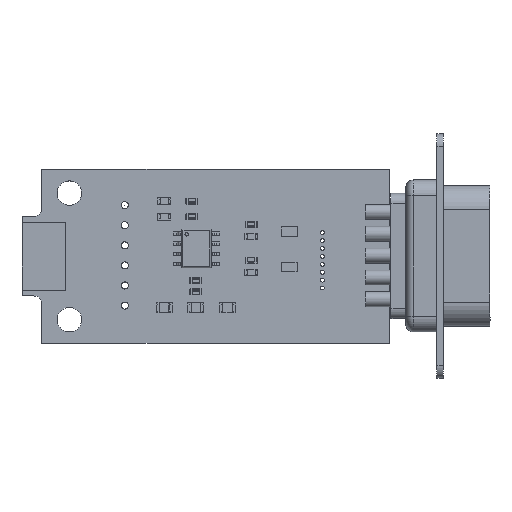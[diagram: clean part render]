
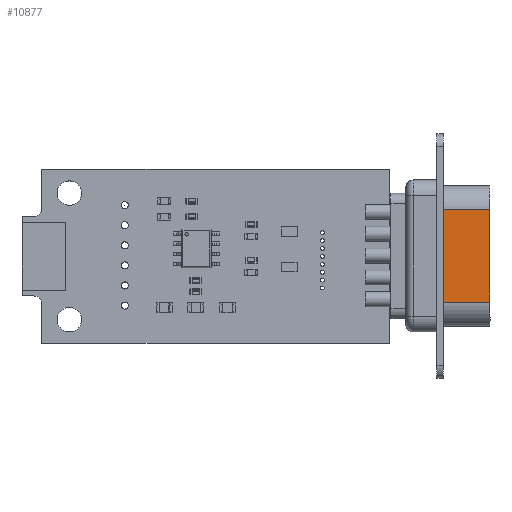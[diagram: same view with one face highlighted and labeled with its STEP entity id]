
A CAD part, top view. The second image highlights one B-rep face of the part: STEP entity #10877.
In plain terms, the highlighted planar face has unit normal (0, 0, 1) as drawn and (0, 1, 0) by its records, which use the part's own axes.
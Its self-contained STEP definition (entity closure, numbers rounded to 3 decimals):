
#3077 = VERTEX_POINT('',#3078);
#3078 = CARTESIAN_POINT('',(-5.829,4.608,0.));
#3086 = PLANE('',#3087);
#3087 = AXIS2_PLACEMENT_3D('',#3088,#3089,#3090);
#3088 = CARTESIAN_POINT('',(0.,0.,0.));
#3089 = DIRECTION('',(0.,0.,1.));
#3090 = DIRECTION('',(1.,0.,0.));
#3102 = CYLINDRICAL_SURFACE('',#3103,3.058);
#3103 = AXIS2_PLACEMENT_3D('',#3104,#3105,#3106);
#3104 = CARTESIAN_POINT('',(-5.829,1.549,0.));
#3105 = DIRECTION('',(0.,0.,1.));
#3106 = DIRECTION('',(1.,0.,0.));
#3113 = EDGE_CURVE('',#3077,#3114,#3116,.T.);
#3114 = VERTEX_POINT('',#3115);
#3115 = CARTESIAN_POINT('',(5.829,4.608,0.));
#3116 = SURFACE_CURVE('',#3117,(#3121,#3128),.PCURVE_S1.);
#3117 = LINE('',#3118,#3119);
#3118 = CARTESIAN_POINT('',(-5.829,4.608,0.));
#3119 = VECTOR('',#3120,1.);
#3120 = DIRECTION('',(1.,0.,0.));
#3121 = PCURVE('',#3086,#3122);
#3122 = DEFINITIONAL_REPRESENTATION('',(#3123),#3127);
#3123 = LINE('',#3124,#3125);
#3124 = CARTESIAN_POINT('',(-5.829,4.608));
#3125 = VECTOR('',#3126,1.);
#3126 = DIRECTION('',(1.,0.));
#3127 = ( GEOMETRIC_REPRESENTATION_CONTEXT(2) 
PARAMETRIC_REPRESENTATION_CONTEXT() REPRESENTATION_CONTEXT('2D SPACE',''
  ) );
#3128 = PCURVE('',#3129,#3134);
#3129 = PLANE('',#3130);
#3130 = AXIS2_PLACEMENT_3D('',#3131,#3132,#3133);
#3131 = CARTESIAN_POINT('',(5.829,4.608,0.));
#3132 = DIRECTION('',(0.,1.,0.));
#3133 = DIRECTION('',(-1.,0.,0.));
#3134 = DEFINITIONAL_REPRESENTATION('',(#3135),#3139);
#3135 = LINE('',#3136,#3137);
#3136 = CARTESIAN_POINT('',(11.659,0.));
#3137 = VECTOR('',#3138,1.);
#3138 = DIRECTION('',(-1.,0.));
#3139 = ( GEOMETRIC_REPRESENTATION_CONTEXT(2) 
PARAMETRIC_REPRESENTATION_CONTEXT() REPRESENTATION_CONTEXT('2D SPACE',''
  ) );
#3162 = CYLINDRICAL_SURFACE('',#3163,3.058);
#3163 = AXIS2_PLACEMENT_3D('',#3164,#3165,#3166);
#3164 = CARTESIAN_POINT('',(5.829,1.549,0.));
#3165 = DIRECTION('',(0.,0.,1.));
#3166 = DIRECTION('',(1.,0.,0.));
#3571 = EDGE_CURVE('',#3572,#3077,#3574,.T.);
#3572 = VERTEX_POINT('',#3573);
#3573 = CARTESIAN_POINT('',(-5.829,4.608,-5.918));
#3574 = SURFACE_CURVE('',#3575,(#3579,#3585),.PCURVE_S1.);
#3575 = LINE('',#3576,#3577);
#3576 = CARTESIAN_POINT('',(-5.829,4.608,-5.918));
#3577 = VECTOR('',#3578,1.);
#3578 = DIRECTION('',(0.,0.,1.));
#3579 = PCURVE('',#3102,#3580);
#3580 = DEFINITIONAL_REPRESENTATION('',(#3581),#3584);
#3581 = B_SPLINE_CURVE_WITH_KNOTS('',1,(#3582,#3583),.UNSPECIFIED.,.F.,
  .F.,(2,2),(0.,5.918),.PIECEWISE_BEZIER_KNOTS.);
#3582 = CARTESIAN_POINT('',(1.571,-5.918));
#3583 = CARTESIAN_POINT('',(1.571,0.));
#3584 = ( GEOMETRIC_REPRESENTATION_CONTEXT(2) 
PARAMETRIC_REPRESENTATION_CONTEXT() REPRESENTATION_CONTEXT('2D SPACE',''
  ) );
#3585 = PCURVE('',#3129,#3586);
#3586 = DEFINITIONAL_REPRESENTATION('',(#3587),#3591);
#3587 = LINE('',#3588,#3589);
#3588 = CARTESIAN_POINT('',(11.659,-5.918));
#3589 = VECTOR('',#3590,1.);
#3590 = DIRECTION('',(0.,1.));
#3591 = ( GEOMETRIC_REPRESENTATION_CONTEXT(2) 
PARAMETRIC_REPRESENTATION_CONTEXT() REPRESENTATION_CONTEXT('2D SPACE',''
  ) );
#3607 = PLANE('',#3608);
#3608 = AXIS2_PLACEMENT_3D('',#3609,#3610,#3611);
#3609 = CARTESIAN_POINT('',(0.,0.,-5.918));
#3610 = DIRECTION('',(0.,0.,-1.));
#3611 = DIRECTION('',(1.,0.,0.));
#4109 = VERTEX_POINT('',#4110);
#4110 = CARTESIAN_POINT('',(5.829,4.608,-5.918));
#4135 = EDGE_CURVE('',#4109,#3572,#4136,.T.);
#4136 = SURFACE_CURVE('',#4137,(#4141,#4148),.PCURVE_S1.);
#4137 = LINE('',#4138,#4139);
#4138 = CARTESIAN_POINT('',(5.829,4.608,-5.918));
#4139 = VECTOR('',#4140,1.);
#4140 = DIRECTION('',(-1.,0.,0.));
#4141 = PCURVE('',#3607,#4142);
#4142 = DEFINITIONAL_REPRESENTATION('',(#4143),#4147);
#4143 = LINE('',#4144,#4145);
#4144 = CARTESIAN_POINT('',(5.829,-4.608));
#4145 = VECTOR('',#4146,1.);
#4146 = DIRECTION('',(-1.,0.));
#4147 = ( GEOMETRIC_REPRESENTATION_CONTEXT(2) 
PARAMETRIC_REPRESENTATION_CONTEXT() REPRESENTATION_CONTEXT('2D SPACE',''
  ) );
#4148 = PCURVE('',#3129,#4149);
#4149 = DEFINITIONAL_REPRESENTATION('',(#4150),#4154);
#4150 = LINE('',#4151,#4152);
#4151 = CARTESIAN_POINT('',(0.,-5.918));
#4152 = VECTOR('',#4153,1.);
#4153 = DIRECTION('',(1.,0.));
#4154 = ( GEOMETRIC_REPRESENTATION_CONTEXT(2) 
PARAMETRIC_REPRESENTATION_CONTEXT() REPRESENTATION_CONTEXT('2D SPACE',''
  ) );
#10855 = EDGE_CURVE('',#4109,#3114,#10856,.T.);
#10856 = SURFACE_CURVE('',#10857,(#10861,#10867),.PCURVE_S1.);
#10857 = LINE('',#10858,#10859);
#10858 = CARTESIAN_POINT('',(5.829,4.608,-5.918));
#10859 = VECTOR('',#10860,1.);
#10860 = DIRECTION('',(0.,0.,1.));
#10861 = PCURVE('',#3162,#10862);
#10862 = DEFINITIONAL_REPRESENTATION('',(#10863),#10866);
#10863 = B_SPLINE_CURVE_WITH_KNOTS('',1,(#10864,#10865),.UNSPECIFIED.,
  .F.,.F.,(2,2),(0.,5.918),.PIECEWISE_BEZIER_KNOTS.);
#10864 = CARTESIAN_POINT('',(1.571,-5.918));
#10865 = CARTESIAN_POINT('',(1.571,0.));
#10866 = ( GEOMETRIC_REPRESENTATION_CONTEXT(2) 
PARAMETRIC_REPRESENTATION_CONTEXT() REPRESENTATION_CONTEXT('2D SPACE',''
  ) );
#10867 = PCURVE('',#3129,#10868);
#10868 = DEFINITIONAL_REPRESENTATION('',(#10869),#10873);
#10869 = LINE('',#10870,#10871);
#10870 = CARTESIAN_POINT('',(0.,-5.918));
#10871 = VECTOR('',#10872,1.);
#10872 = DIRECTION('',(0.,1.));
#10873 = ( GEOMETRIC_REPRESENTATION_CONTEXT(2) 
PARAMETRIC_REPRESENTATION_CONTEXT() REPRESENTATION_CONTEXT('2D SPACE',''
  ) );
#10877 = ADVANCED_FACE('',(#10878),#3129,.T.);
#10878 = FACE_BOUND('',#10879,.F.);
#10879 = EDGE_LOOP('',(#10880,#10881,#10882,#10883));
#10880 = ORIENTED_EDGE('',*,*,#4135,.F.);
#10881 = ORIENTED_EDGE('',*,*,#10855,.T.);
#10882 = ORIENTED_EDGE('',*,*,#3113,.F.);
#10883 = ORIENTED_EDGE('',*,*,#3571,.F.);
